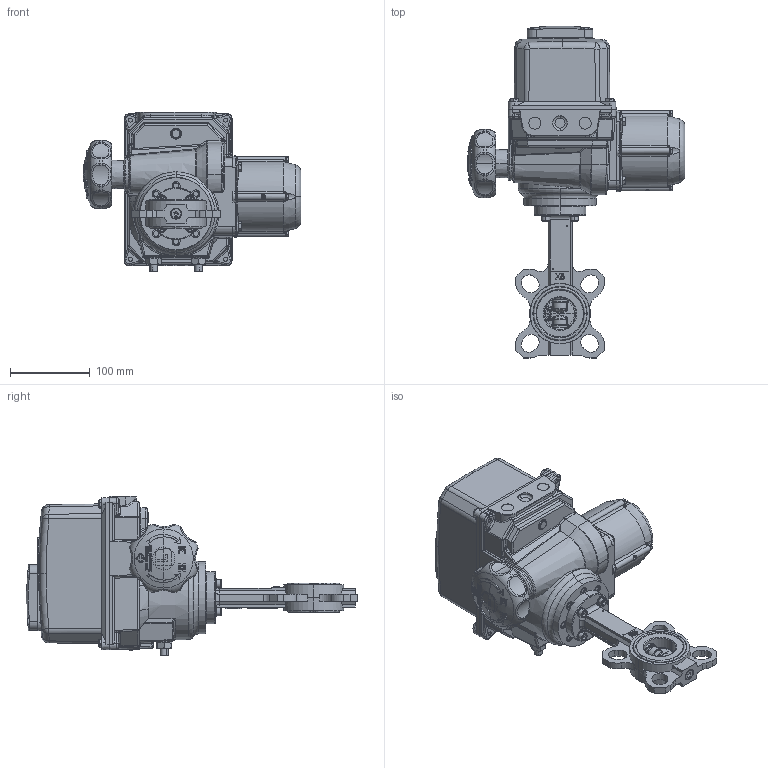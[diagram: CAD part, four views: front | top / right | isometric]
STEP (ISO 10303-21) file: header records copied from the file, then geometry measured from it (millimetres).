
FILE_DESCRIPTION (( 'STEP AP203' ), '1' );
FILE_NAME ('VPI-B24 DN40.step', '2016-09-29T14:58:05', ( 'TECOFI' ), ( '' ), 'SwSTEP 2.0', 'SolidWorks 2014', '' );
FILE_SCHEMA (( 'CONFIG_CONTROL_DESIGN' ));
Products named in the file (1): VPI-B24 DN40
Bounding box: 272.5 x 415.2 x 199.8 mm (x, y, z)
Volume: 4825501.5 mm3; surface area: 294096.4 mm2
Topology: 14 solids, 14 shells, 2971 faces, 7629 edges, 4839 vertices
Faces by surface type: plane 1402, bspline 668, cylinder 517, cone 151, torus 125, sphere 108
Entity records: 124170 total; most frequent: CARTESIAN_POINT 57043, ORIENTED_EDGE 15168, DIRECTION 12308, EDGE_CURVE 7584, VERTEX_POINT 4839, AXIS2_PLACEMENT_3D 4459, LINE 3390, VECTOR 3390
